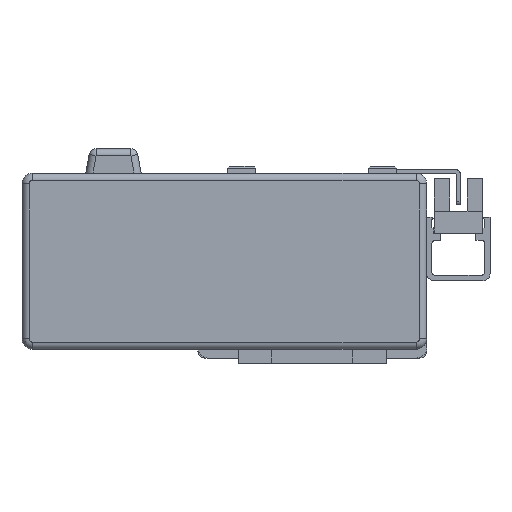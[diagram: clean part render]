
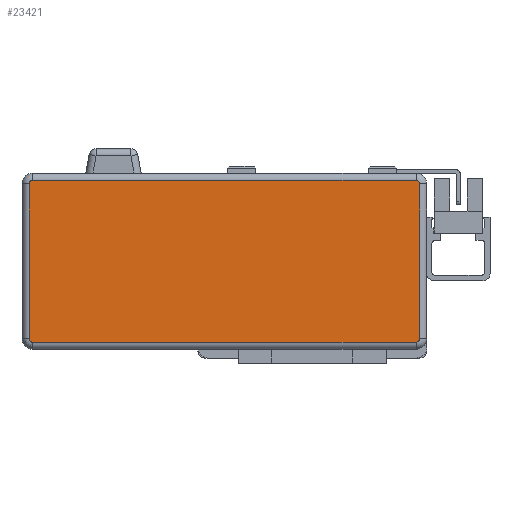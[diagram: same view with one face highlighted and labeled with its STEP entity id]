
A CAD part, left-side view. The second image highlights one B-rep face of the part: STEP entity #23421.
In plain terms, the highlighted planar face has unit normal (-1, 0, 0) as drawn and (0, 0, 1) by its records, which use the part's own axes.
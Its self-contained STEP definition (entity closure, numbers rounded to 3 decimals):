
#1 = AXIS2_PLACEMENT_3D ( 'NONE', #5972, #5936, #5911 ) ;
#520 = CARTESIAN_POINT ( 'NONE',  ( -55.5, 22., 40. ) ) ;
#752 = AXIS2_PLACEMENT_3D ( 'NONE', #24061, #24088, #24121 ) ;
#1020 = AXIS2_PLACEMENT_3D ( 'NONE', #9438, #5200, #11542 ) ;
#3338 = EDGE_CURVE ( 'NONE', #12425, #12260, #9639, .T. ) ;
#3658 = CARTESIAN_POINT ( 'NONE',  ( -54.5, 23., 40. ) ) ;
#4146 = CARTESIAN_POINT ( 'NONE',  ( 55.5, 22., 40. ) ) ;
#4671 = CARTESIAN_POINT ( 'NONE',  ( -54.5, 22., 40. ) ) ;
#4674 = DIRECTION ( 'NONE',  ( 0., 0., 1. ) ) ;
#4775 = CIRCLE ( 'NONE', #752, 1. ) ;
#5108 = CARTESIAN_POINT ( 'NONE',  ( -55.5, -22., 40. ) ) ;
#5200 = DIRECTION ( 'NONE',  ( 0., 0., 1. ) ) ;
#5911 = DIRECTION ( 'NONE',  ( -1., 0., 0. ) ) ;
#5936 = DIRECTION ( 'NONE',  ( 0., 0., -1. ) ) ;
#5972 = CARTESIAN_POINT ( 'NONE',  ( 0., 0., 40. ) ) ;
#6029 = PLANE ( 'NONE',  #1 ) ;
#6033 = DIRECTION ( 'NONE',  ( -1., 0., 0. ) ) ;
#6060 = DIRECTION ( 'NONE',  ( 0., 0., 1. ) ) ;
#6086 = CARTESIAN_POINT ( 'NONE',  ( 54.5, -22., 40. ) ) ;
#6164 = VECTOR ( 'NONE', #18491, 1000. ) ;
#6650 = VERTEX_POINT ( 'NONE', #4146 ) ;
#6715 = LINE ( 'NONE', #18433, #6164 ) ;
#7419 = VERTEX_POINT ( 'NONE', #17151 ) ;
#8213 = AXIS2_PLACEMENT_3D ( 'NONE', #4671, #4674, #25301 ) ;
#8611 = EDGE_LOOP ( 'NONE', ( #14760, #15036, #15227, #15260, #15470, #15689, #15813, #16077 ) ) ;
#9438 = CARTESIAN_POINT ( 'NONE',  ( 54.5, 22., 40. ) ) ;
#9639 = CIRCLE ( 'NONE', #11742, 1. ) ;
#9684 = DIRECTION ( 'NONE',  ( 1., 0., 0. ) ) ;
#9758 = CARTESIAN_POINT ( 'NONE',  ( 0., -23., 40. ) ) ;
#10900 = VERTEX_POINT ( 'NONE', #20580 ) ;
#11542 = DIRECTION ( 'NONE',  ( -1., 0., 0. ) ) ;
#11742 = AXIS2_PLACEMENT_3D ( 'NONE', #6086, #6060, #6033 ) ;
#11838 = CARTESIAN_POINT ( 'NONE',  ( 55.5, 0., 40. ) ) ;
#11847 = DIRECTION ( 'NONE',  ( 0., 1., 0. ) ) ;
#12260 = VERTEX_POINT ( 'NONE', #13870 ) ;
#12425 = VERTEX_POINT ( 'NONE', #12973 ) ;
#12501 = DIRECTION ( 'NONE',  ( 0., -1., 0. ) ) ;
#12522 = CARTESIAN_POINT ( 'NONE',  ( -55.5, 0., 40. ) ) ;
#12554 = EDGE_CURVE ( 'NONE', #14189, #14295, #20166, .T. ) ;
#12973 = CARTESIAN_POINT ( 'NONE',  ( 54.5, -23., 40. ) ) ;
#13163 = VECTOR ( 'NONE', #9684, 1000. ) ;
#13396 = LINE ( 'NONE', #9758, #13163 ) ;
#13819 = VECTOR ( 'NONE', #11847, 1000. ) ;
#13870 = CARTESIAN_POINT ( 'NONE',  ( 55.5, -22., 40. ) ) ;
#13871 = LINE ( 'NONE', #11838, #13819 ) ;
#13878 = VERTEX_POINT ( 'NONE', #3658 ) ;
#14189 = VERTEX_POINT ( 'NONE', #520 ) ;
#14250 = EDGE_CURVE ( 'NONE', #6650, #10900, #16017, .T. ) ;
#14295 = VERTEX_POINT ( 'NONE', #5108 ) ;
#14760 = ORIENTED_EDGE ( 'NONE', *, *, #24997, .T. ) ;
#15036 = ORIENTED_EDGE ( 'NONE', *, *, #3338, .T. ) ;
#15073 = EDGE_CURVE ( 'NONE', #14295, #7419, #4775, .T. ) ;
#15227 = ORIENTED_EDGE ( 'NONE', *, *, #24919, .T. ) ;
#15260 = ORIENTED_EDGE ( 'NONE', *, *, #14250, .T. ) ;
#15470 = ORIENTED_EDGE ( 'NONE', *, *, #17993, .T. ) ;
#15689 = ORIENTED_EDGE ( 'NONE', *, *, #24053, .T. ) ;
#15813 = ORIENTED_EDGE ( 'NONE', *, *, #12554, .T. ) ;
#16017 = CIRCLE ( 'NONE', #1020, 1. ) ;
#16077 = ORIENTED_EDGE ( 'NONE', *, *, #15073, .T. ) ;
#17151 = CARTESIAN_POINT ( 'NONE',  ( -54.5, -23., 40. ) ) ;
#17993 = EDGE_CURVE ( 'NONE', #10900, #13878, #6715, .T. ) ;
#18433 = CARTESIAN_POINT ( 'NONE',  ( 0., 23., 40. ) ) ;
#18491 = DIRECTION ( 'NONE',  ( -1., 0., 0. ) ) ;
#18606 = VECTOR ( 'NONE', #12501, 1000. ) ;
#19199 = CIRCLE ( 'NONE', #8213, 1. ) ;
#20166 = LINE ( 'NONE', #12522, #18606 ) ;
#20580 = CARTESIAN_POINT ( 'NONE',  ( 54.5, 23., 40. ) ) ;
#23421 = ADVANCED_FACE ( 'NONE', ( #24965 ), #6029, .F. ) ;
#24053 = EDGE_CURVE ( 'NONE', #13878, #14189, #19199, .T. ) ;
#24061 = CARTESIAN_POINT ( 'NONE',  ( -54.5, -22., 40. ) ) ;
#24088 = DIRECTION ( 'NONE',  ( 0., 0., 1. ) ) ;
#24121 = DIRECTION ( 'NONE',  ( -1., 0., 0. ) ) ;
#24919 = EDGE_CURVE ( 'NONE', #12260, #6650, #13871, .T. ) ;
#24965 = FACE_OUTER_BOUND ( 'NONE', #8611, .T. ) ;
#24997 = EDGE_CURVE ( 'NONE', #7419, #12425, #13396, .T. ) ;
#25301 = DIRECTION ( 'NONE',  ( -1., 0., 0. ) ) ;
